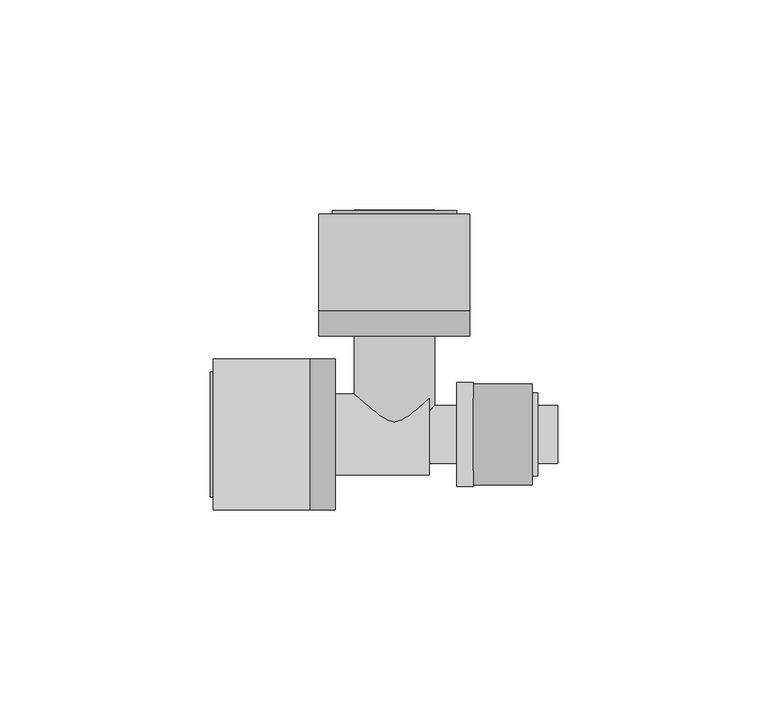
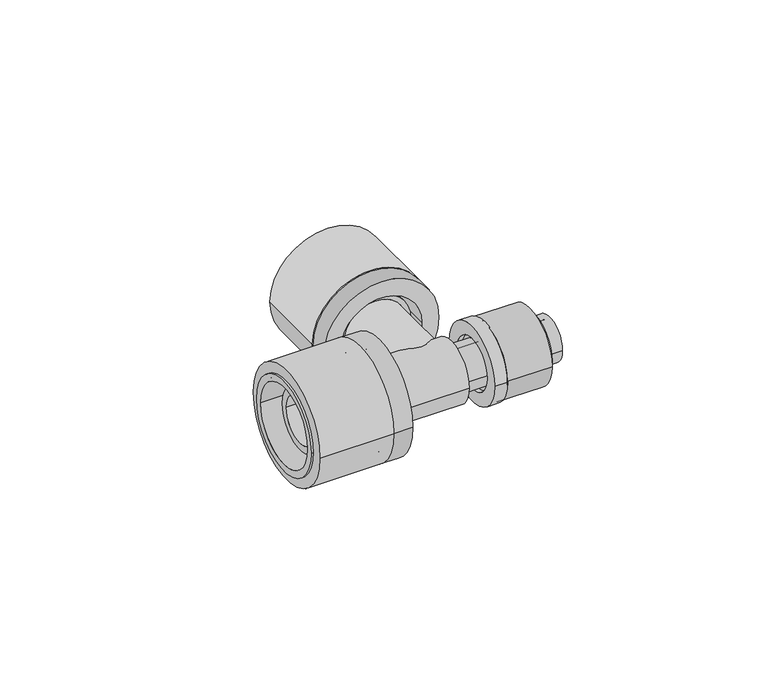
"""IFC4 building model written with IfcOpenShell, lengths in millimetres: pipe fitting geometry, FASTLOC_T-piece_LX : FSL T-Piece LX CZ."""

from ifc_helpers import new_model, si_unit, point, frame, origin, origin_2d, place, context, project, spatial, polyline, circle_curve, trimmed, segment, composite_curve, outline, extrude, source, transform, mapped, element, save
from ifc_brep_helpers import plane_surface, cylinder_surface, revolved_surface, advanced_brep


def pipe_fitting_16730f07(model_context):
    return source(origin(), model_context, "Body", "SolidModel", [
        extrude(outline(composite_curve([segment(trimmed(circle_curve(origin_2d(), 12.0), [point((-12.0, 0.0))], [point((12.0, 0.0))], False, "CARTESIAN"), True, "CONTINUOUS"), segment(trimmed(circle_curve(origin_2d(), 12.0), [point((12.0, 0.0))], [point((-12.0, 0.0))], False, "CARTESIAN"), True, "CONTINUOUS")], self_intersect=False), holes=[composite_curve([segment(trimmed(circle_curve(origin_2d(), 8.85), [point((-8.85, 0.0))], [point((8.85, 0.0))], True, "CARTESIAN"), True, "CONTINUOUS"), segment(trimmed(circle_curve(origin_2d(), 8.85), [point((8.85, 0.0))], [point((-8.85, 0.0))], True, "CARTESIAN"), True, "CONTINUOUS")], self_intersect=False)]), frame((18.8, 0.0, 0.0), z_axis=(1.0, 0.0, 0.0), x_axis=(0.0, 1.0, 0.0)), (0.0, 0.0, 1.0), 14.0),
        advanced_brep(
        [(18.8, 12.35, 0.0), (18.8, -12.35, 0.0), (14.8, -12.35, 0.0), (14.8, 12.35, 0.0), (34.1, 9.85, 0.0), (34.1, -9.85, 0.0), (18.8, -9.85, 0.0), (18.8, 9.85, 0.0), (14.8, 8.15, 0.0), (14.8, -8.15, 0.0), (34.1, -8.15, 0.0), (34.1, 8.15, 0.0)],
        [
            (0, 1, circle_curve(frame((18.8, 0.0, 0.0), z_axis=(-1.0, 0.0, 0.0), x_axis=(0.0, -1.0, 0.0)), 12.35)),
            (1, 2),
            (2, 3, circle_curve(frame((14.8, 0.0, 0.0), z_axis=(1.0, 0.0, 0.0), x_axis=(0.0, -1.0, 0.0)), 12.35)),
            (3, 0),
            (4, 5, circle_curve(frame((34.1, 0.0, 0.0), z_axis=(-1.0, 0.0, 0.0), x_axis=(0.0, -1.0, 0.0)), 9.85)),
            (5, 6),
            (6, 7, circle_curve(frame((18.8, 0.0, 0.0), z_axis=(1.0, 0.0, 0.0), x_axis=(0.0, -1.0, 0.0)), 9.85)),
            (7, 4),
            (8, 9, circle_curve(frame((14.8, 0.0, 0.0), z_axis=(-1.0, 0.0, 0.0), x_axis=(0.0, -1.0, 0.0)), 8.15)),
            (9, 10),
            (10, 11, circle_curve(frame((34.1, 0.0, 0.0), z_axis=(1.0, 0.0, 0.0), x_axis=(0.0, -1.0, 0.0)), 8.15)),
            (11, 8),
            (1, 0, circle_curve(frame((18.8, 0.0, 0.0), z_axis=(-1.0, 0.0, 0.0), x_axis=(0.0, 1.0, 0.0)), 12.35)),
            (3, 2, circle_curve(frame((14.8, 0.0, 0.0), z_axis=(1.0, 0.0, 0.0), x_axis=(0.0, 1.0, 0.0)), 12.35)),
            (6, 7, circle_curve(frame((18.8, 0.0, 0.0), z_axis=(-1.0, 0.0, 0.0), x_axis=(0.0, 1.0, 0.0)), 9.85)),
            (5, 4, circle_curve(frame((34.1, 0.0, 0.0), z_axis=(-1.0, 0.0, 0.0), x_axis=(0.0, 1.0, 0.0)), 9.85)),
            (10, 11, circle_curve(frame((34.1, 0.0, 0.0), z_axis=(-1.0, 0.0, 0.0), x_axis=(0.0, 1.0, 0.0)), 8.15)),
            (9, 8, circle_curve(frame((14.8, 0.0, 0.0), z_axis=(-1.0, 0.0, 0.0), x_axis=(0.0, 1.0, 0.0)), 8.15)),
        ],
        [
            cylinder_surface(frame((14.8, 0.0, 0.0), z_axis=(1.0, 0.0, 0.0), x_axis=(0.0, -1.0, 0.0)), 12.35),
            cylinder_surface(frame((14.8, 0.0, 0.0), z_axis=(1.0, 0.0, 0.0), x_axis=(0.0, -1.0, 0.0)), 9.85),
            revolved_surface(polyline([(34.1, -8.15, 0.0), (14.8, -8.15, 0.0)]), (14.8, 0.0, 0.0), (1.0, 0.0, 0.0)),
            cylinder_surface(frame((14.8, 0.0, 0.0), z_axis=(1.0, 0.0, 0.0), x_axis=(0.0, 1.0, 0.0)), 12.35),
            plane_surface(frame((18.8, 0.0, 0.0), z_axis=(1.0, 0.0, 0.0), x_axis=(0.0, 1.0, 0.0))),
            cylinder_surface(frame((14.8, 0.0, 0.0), z_axis=(1.0, 0.0, 0.0), x_axis=(0.0, 1.0, 0.0)), 9.85),
            plane_surface(frame((34.1, 0.0, 0.0), z_axis=(1.0, 0.0, 0.0), x_axis=(0.0, 1.0, 0.0))),
            revolved_surface(polyline([(34.1, 8.15, 0.0), (14.8, 8.15, 0.0)]), (14.8, 0.0, 0.0), (1.0, 0.0, 0.0)),
            plane_surface(frame((14.8, 0.0, 0.0), z_axis=(-1.0, 0.0, 0.0), x_axis=(0.0, 1.0, 0.0))),
        ],
        [
            (0, [[1, 2, 3, 4]]),
            (1, [[5, 6, 7, 8]]),
            (2, [[9, 10, 11, 12]]),
            (3, [[13, -4, 14, -2]]),
            (4, [[-13, -1], [15, -7]]),
            (5, [[16, -8, -15, -6]]),
            (6, [[-16, -5], [17, -11]]),
            (7, [[18, -12, -17, -10]]),
            (8, [[-14, -3], [-18, -9]]),
        ],
    ),
        extrude(outline(composite_curve([segment(trimmed(circle_curve(origin_2d(), 18.0), [point((18.0, 0.0))], [point((-18.0, 0.0))], False, "CARTESIAN"), True, "CONTINUOUS"), segment(trimmed(circle_curve(origin_2d(), 18.0), [point((-18.0, 0.0))], [point((18.0, 0.0))], False, "CARTESIAN"), True, "CONTINUOUS")], self_intersect=False), holes=[composite_curve([segment(trimmed(circle_curve(origin_2d(), 13.5), [point((13.5, 0.0))], [point((-13.5, 0.0))], True, "CARTESIAN"), True, "CONTINUOUS"), segment(trimmed(circle_curve(origin_2d(), 13.5), [point((-13.5, 0.0))], [point((13.5, 0.0))], True, "CARTESIAN"), True, "CONTINUOUS")], self_intersect=False)]), frame((-43.1, 0.0, 0.0), z_axis=(1.0, 0.0, 0.0), x_axis=(0.0, 1.0, 0.0)), (0.0, 0.0, 1.0), 23.0),
        advanced_brep(
        [(-20.1, -18.0, 0.0), (-20.1, 18.0, 0.0), (-14.1, 18.0, 0.0), (-14.1, -18.0, 0.0), (-43.9, -14.85, 0.0), (-43.9, 14.85, 0.0), (-20.1, 14.85, 0.0), (-20.1, -14.85, 0.0), (-14.1, -12.65, 0.0), (-14.1, 12.65, 0.0), (-43.9, 12.65, 0.0), (-43.9, -12.65, 0.0)],
        [
            (0, 1, circle_curve(frame((-20.1, 0.0, 0.0), z_axis=(1.0, 0.0, 0.0), x_axis=(0.0, 1.0, 0.0)), 18.0)),
            (1, 2),
            (2, 3, circle_curve(frame((-14.1, 0.0, 0.0), z_axis=(-1.0, 0.0, 0.0), x_axis=(0.0, 1.0, 0.0)), 18.0)),
            (3, 0),
            (4, 5, circle_curve(frame((-43.9, 0.0, 0.0), z_axis=(1.0, 0.0, 0.0), x_axis=(0.0, 1.0, 0.0)), 14.85)),
            (5, 6),
            (6, 7, circle_curve(frame((-20.1, 0.0, 0.0), z_axis=(-1.0, 0.0, 0.0), x_axis=(0.0, 1.0, 0.0)), 14.85)),
            (7, 4),
            (8, 9, circle_curve(frame((-14.1, 0.0, 0.0), z_axis=(1.0, 0.0, 0.0), x_axis=(0.0, 1.0, 0.0)), 12.65)),
            (9, 10),
            (10, 11, circle_curve(frame((-43.9, 0.0, 0.0), z_axis=(-1.0, 0.0, 0.0), x_axis=(0.0, 1.0, 0.0)), 12.65)),
            (11, 8),
            (1, 0, circle_curve(frame((-20.1, 0.0, 0.0), z_axis=(1.0, 0.0, 0.0), x_axis=(0.0, -1.0, 0.0)), 18.0)),
            (3, 2, circle_curve(frame((-14.1, 0.0, 0.0), z_axis=(-1.0, 0.0, 0.0), x_axis=(0.0, -1.0, 0.0)), 18.0)),
            (6, 7, circle_curve(frame((-20.1, 0.0, 0.0), z_axis=(1.0, 0.0, 0.0), x_axis=(0.0, -1.0, 0.0)), 14.85)),
            (5, 4, circle_curve(frame((-43.9, 0.0, 0.0), z_axis=(1.0, 0.0, 0.0), x_axis=(0.0, -1.0, 0.0)), 14.85)),
            (10, 11, circle_curve(frame((-43.9, 0.0, 0.0), z_axis=(1.0, 0.0, 0.0), x_axis=(0.0, -1.0, 0.0)), 12.65)),
            (9, 8, circle_curve(frame((-14.1, 0.0, 0.0), z_axis=(1.0, 0.0, 0.0), x_axis=(0.0, -1.0, 0.0)), 12.65)),
        ],
        [
            cylinder_surface(frame((-14.1, 0.0, 0.0), z_axis=(-1.0, 0.0, 0.0), x_axis=(0.0, 1.0, 0.0)), 18.0),
            cylinder_surface(frame((-14.1, 0.0, 0.0), z_axis=(-1.0, 0.0, 0.0), x_axis=(0.0, 1.0, 0.0)), 14.85),
            revolved_surface(polyline([(-43.9, 12.65, 0.0), (-14.1, 12.65, 0.0)]), (-14.1, 0.0, 0.0), (-1.0, 0.0, 0.0)),
            cylinder_surface(frame((-14.1, 0.0, 0.0), z_axis=(-1.0, 0.0, 0.0), x_axis=(0.0, -1.0, 0.0)), 18.0),
            plane_surface(frame((-20.1, 0.0, 0.0), z_axis=(-1.0, 0.0, 0.0), x_axis=(0.0, -1.0, 0.0))),
            cylinder_surface(frame((-14.1, 0.0, 0.0), z_axis=(-1.0, 0.0, 0.0), x_axis=(0.0, -1.0, 0.0)), 14.85),
            plane_surface(frame((-43.9, 0.0, 0.0), z_axis=(-1.0, 0.0, 0.0), x_axis=(0.0, -1.0, 0.0))),
            revolved_surface(polyline([(-43.9, -12.65, 0.0), (-14.1, -12.65, 0.0)]), (-14.1, 0.0, 0.0), (-1.0, 0.0, 0.0)),
            plane_surface(frame((-14.1, 0.0, 0.0), z_axis=(1.0, 0.0, 0.0), x_axis=(0.0, -1.0, 0.0))),
        ],
        [
            (0, [[1, 2, 3, 4]]),
            (1, [[5, 6, 7, 8]]),
            (2, [[9, 10, 11, 12]]),
            (3, [[13, -4, 14, -2]]),
            (4, [[-13, -1], [15, -7]]),
            (5, [[16, -8, -15, -6]]),
            (6, [[-16, -5], [17, -11]]),
            (7, [[18, -12, -17, -10]]),
            (8, [[-14, -3], [-18, -9]]),
        ],
    ),
        extrude(outline(composite_curve([segment(trimmed(circle_curve(origin_2d(), 18.0), [point((0.0, 18.0))], [point((0.0, -18.0))], False, "CARTESIAN"), True, "CONTINUOUS"), segment(trimmed(circle_curve(origin_2d(), 18.0), [point((0.0, -18.0))], [point((0.0, 18.0))], False, "CARTESIAN"), True, "CONTINUOUS")], self_intersect=False), holes=[composite_curve([segment(trimmed(circle_curve(origin_2d(), 13.5), [point((0.0, 13.5))], [point((0.0, -13.5))], True, "CARTESIAN"), True, "CONTINUOUS"), segment(trimmed(circle_curve(origin_2d(), 13.5), [point((0.0, -13.5))], [point((0.0, 13.5))], True, "CARTESIAN"), True, "CONTINUOUS")], self_intersect=False)]), frame((0.0, 29.5, 0.0), z_axis=(0.0, 1.0, 0.0), x_axis=(0.0, 0.0, 1.0)), (0.0, 0.0, 1.0), 23.0),
        advanced_brep(
        [(-18.0, 29.5, 0.0), (18.0, 29.5, 0.0), (18.0, 23.5, 0.0), (-18.0, 23.5, 0.0), (-14.85, 53.3, 0.0), (14.85, 53.3, 0.0), (14.85, 29.5, 0.0), (-14.85, 29.5, 0.0), (-12.65, 23.5, 0.0), (12.65, 23.5, 0.0), (12.65, 53.3, 0.0), (-12.65, 53.3, 0.0)],
        [
            (0, 1, circle_curve(frame((0.0, 29.5, 0.0), z_axis=(0.0, -1.0, 0.0), x_axis=(1.0, 0.0, 0.0)), 18.0)),
            (1, 2),
            (2, 3, circle_curve(frame((0.0, 23.5, 0.0), z_axis=(0.0, 1.0, 0.0), x_axis=(1.0, 0.0, 0.0)), 18.0)),
            (3, 0),
            (4, 5, circle_curve(frame((0.0, 53.3, 0.0), z_axis=(0.0, -1.0, 0.0), x_axis=(1.0, 0.0, 0.0)), 14.85)),
            (5, 6),
            (6, 7, circle_curve(frame((0.0, 29.5, 0.0), z_axis=(0.0, 1.0, 0.0), x_axis=(1.0, 0.0, 0.0)), 14.85)),
            (7, 4),
            (8, 9, circle_curve(frame((0.0, 23.5, 0.0), z_axis=(0.0, -1.0, 0.0), x_axis=(1.0, 0.0, 0.0)), 12.65)),
            (9, 10),
            (10, 11, circle_curve(frame((0.0, 53.3, 0.0), z_axis=(0.0, 1.0, 0.0), x_axis=(1.0, 0.0, 0.0)), 12.65)),
            (11, 8),
            (1, 0, circle_curve(frame((0.0, 29.5, 0.0), z_axis=(0.0, -1.0, 0.0), x_axis=(-1.0, 0.0, 0.0)), 18.0)),
            (3, 2, circle_curve(frame((0.0, 23.5, 0.0), z_axis=(0.0, 1.0, 0.0), x_axis=(-1.0, 0.0, 0.0)), 18.0)),
            (6, 7, circle_curve(frame((0.0, 29.5, 0.0), z_axis=(0.0, -1.0, 0.0), x_axis=(-1.0, 0.0, 0.0)), 14.85)),
            (5, 4, circle_curve(frame((0.0, 53.3, 0.0), z_axis=(0.0, -1.0, 0.0), x_axis=(-1.0, 0.0, 0.0)), 14.85)),
            (10, 11, circle_curve(frame((0.0, 53.3, 0.0), z_axis=(0.0, -1.0, 0.0), x_axis=(-1.0, 0.0, 0.0)), 12.65)),
            (9, 8, circle_curve(frame((0.0, 23.5, 0.0), z_axis=(0.0, -1.0, 0.0), x_axis=(-1.0, 0.0, 0.0)), 12.65)),
        ],
        [
            cylinder_surface(frame((0.0, 23.5, 0.0), z_axis=(0.0, 1.0, 0.0), x_axis=(1.0, 0.0, 0.0)), 18.0),
            cylinder_surface(frame((0.0, 23.5, 0.0), z_axis=(0.0, 1.0, 0.0), x_axis=(1.0, 0.0, 0.0)), 14.85),
            revolved_surface(polyline([(12.65, 53.3, 0.0), (12.65, 23.5, 0.0)]), (0.0, 23.5, 0.0), (0.0, 1.0, 0.0)),
            cylinder_surface(frame((0.0, 23.5, 0.0), z_axis=(0.0, 1.0, 0.0), x_axis=(-1.0, 0.0, 0.0)), 18.0),
            plane_surface(frame((0.0, 29.5, 0.0), z_axis=(0.0, 1.0, 0.0), x_axis=(-1.0, 0.0, 0.0))),
            cylinder_surface(frame((0.0, 23.5, 0.0), z_axis=(0.0, 1.0, 0.0), x_axis=(-1.0, 0.0, 0.0)), 14.85),
            plane_surface(frame((0.0, 53.3, 0.0), z_axis=(0.0, 1.0, 0.0), x_axis=(-1.0, 0.0, 0.0))),
            revolved_surface(polyline([(-12.65, 53.3, 0.0), (-12.65, 23.5, 0.0)]), (0.0, 23.5, 0.0), (0.0, 1.0, 0.0)),
            plane_surface(frame((0.0, 23.5, 0.0), z_axis=(0.0, -1.0, 0.0), x_axis=(-1.0, 0.0, 0.0))),
        ],
        [
            (0, [[1, 2, 3, 4]]),
            (1, [[5, 6, 7, 8]]),
            (2, [[9, 10, 11, 12]]),
            (3, [[13, -4, 14, -2]]),
            (4, [[-13, -1], [15, -7]]),
            (5, [[16, -8, -15, -6]]),
            (6, [[-16, -5], [17, -11]]),
            (7, [[18, -12, -17, -10]]),
            (8, [[-14, -3], [-18, -9]]),
        ],
    ),
        advanced_brep(
        [(16.09, 6.95, 0.0), (16.09, -6.95, 0.0), (8.35, -6.95, 0.0), (8.35, 6.95, 0.0), (18.8, 8.05, 0.0), (18.8, -8.05, 0.0), (16.09, -8.05, 0.0), (16.09, 8.05, 0.0), (38.95, 6.95, 0.0), (38.95, -6.95, 0.0), (18.8, -6.95, 0.0), (18.8, 6.95, 0.0), (6.5, 5.1, 0.0), (6.5, -5.1, 0.0), (38.95, -5.1, 0.0), (38.95, 5.1, 0.0), (-38.95, 7.35, 0.0), (-38.95, -7.35, 0.0), (6.5, -7.35, 0.0), (6.5, 7.35, 0.0), (-20.1, 9.6, 0.0), (-20.1, -9.6, 0.0), (-38.95, -9.6, 0.0), (-38.95, 9.6, 0.0), (-17.3, 11.1, 0.0), (-17.3, -11.1, 0.0), (-20.1, -11.1, 0.0), (-20.1, 11.1, 0.0), (8.35, 9.6, 0.0), (8.35, -9.6, 0.0), (-17.3, -9.6, 0.0), (-17.3, 9.6, 0.0)],
        [
            (0, 1, circle_curve(frame((16.09, 0.0, 0.0), z_axis=(-1.0, 0.0, 0.0), x_axis=(0.0, -1.0, 0.0)), 6.95)),
            (1, 2),
            (2, 3, circle_curve(frame((8.35, 0.0, 0.0), z_axis=(1.0, 0.0, 0.0), x_axis=(0.0, -1.0, 0.0)), 6.95)),
            (3, 0),
            (4, 5, circle_curve(frame((18.8, 0.0, 0.0), z_axis=(-1.0, 0.0, 0.0), x_axis=(0.0, -1.0, 0.0)), 8.05)),
            (5, 6),
            (6, 7, circle_curve(frame((16.09, 0.0, 0.0), z_axis=(1.0, 0.0, 0.0), x_axis=(0.0, -1.0, 0.0)), 8.05)),
            (7, 4),
            (8, 9, circle_curve(frame((38.95, 0.0, 0.0), z_axis=(-1.0, 0.0, 0.0), x_axis=(0.0, -1.0, 0.0)), 6.95)),
            (9, 10),
            (10, 11, circle_curve(frame((18.8, 0.0, 0.0), z_axis=(1.0, 0.0, 0.0), x_axis=(0.0, -1.0, 0.0)), 6.95)),
            (11, 8),
            (12, 13, circle_curve(frame((6.5, 0.0, 0.0), z_axis=(-1.0, 0.0, 0.0), x_axis=(0.0, -1.0, 0.0)), 5.1)),
            (13, 14),
            (14, 15, circle_curve(frame((38.95, 0.0, 0.0), z_axis=(1.0, 0.0, 0.0), x_axis=(0.0, -1.0, 0.0)), 5.1)),
            (15, 12),
            (16, 17, circle_curve(frame((-38.95, 0.0, 0.0), z_axis=(-1.0, 0.0, 0.0), x_axis=(0.0, -1.0, 0.0)), 7.35)),
            (17, 18),
            (18, 19, circle_curve(frame((6.5, 0.0, 0.0), z_axis=(1.0, 0.0, 0.0), x_axis=(0.0, -1.0, 0.0)), 7.35)),
            (19, 16),
            (20, 21, circle_curve(frame((-20.1, 0.0, 0.0), z_axis=(-1.0, 0.0, 0.0), x_axis=(0.0, -1.0, 0.0)), 9.6)),
            (21, 22),
            (22, 23, circle_curve(frame((-38.95, 0.0, 0.0), z_axis=(1.0, 0.0, 0.0), x_axis=(0.0, -1.0, 0.0)), 9.6)),
            (23, 20),
            (24, 25, circle_curve(frame((-17.3, 0.0, 0.0), z_axis=(-1.0, 0.0, 0.0), x_axis=(0.0, -1.0, 0.0)), 11.1)),
            (25, 26),
            (26, 27, circle_curve(frame((-20.1, 0.0, 0.0), z_axis=(1.0, 0.0, 0.0), x_axis=(0.0, -1.0, 0.0)), 11.1)),
            (27, 24),
            (28, 29, circle_curve(frame((8.35, 0.0, 0.0), z_axis=(-1.0, 0.0, 0.0), x_axis=(0.0, -1.0, 0.0)), 9.6)),
            (29, 30),
            (30, 31, circle_curve(frame((-17.3, 0.0, 0.0), z_axis=(1.0, 0.0, 0.0), x_axis=(0.0, -1.0, 0.0)), 9.6)),
            (31, 28),
            (28, 29, circle_curve(frame((8.35, 0.0, 0.0), z_axis=(1.0, 0.0, 0.0), x_axis=(0.0, 1.0, 0.0)), 9.6)),
            (2, 3, circle_curve(frame((8.35, 0.0, 0.0), z_axis=(-1.0, 0.0, 0.0), x_axis=(0.0, 1.0, 0.0)), 6.95)),
            (1, 0, circle_curve(frame((16.09, 0.0, 0.0), z_axis=(-1.0, 0.0, 0.0), x_axis=(0.0, 1.0, 0.0)), 6.95)),
            (6, 7, circle_curve(frame((16.09, 0.0, 0.0), z_axis=(-1.0, 0.0, 0.0), x_axis=(0.0, 1.0, 0.0)), 8.05)),
            (5, 4, circle_curve(frame((18.8, 0.0, 0.0), z_axis=(-1.0, 0.0, 0.0), x_axis=(0.0, 1.0, 0.0)), 8.05)),
            (10, 11, circle_curve(frame((18.8, 0.0, 0.0), z_axis=(-1.0, 0.0, 0.0), x_axis=(0.0, 1.0, 0.0)), 6.95)),
            (9, 8, circle_curve(frame((38.95, 0.0, 0.0), z_axis=(-1.0, 0.0, 0.0), x_axis=(0.0, 1.0, 0.0)), 6.95)),
            (14, 15, circle_curve(frame((38.95, 0.0, 0.0), z_axis=(-1.0, 0.0, 0.0), x_axis=(0.0, 1.0, 0.0)), 5.1)),
            (13, 12, circle_curve(frame((6.5, 0.0, 0.0), z_axis=(-1.0, 0.0, 0.0), x_axis=(0.0, 1.0, 0.0)), 5.1)),
            (18, 19, circle_curve(frame((6.5, 0.0, 0.0), z_axis=(-1.0, 0.0, 0.0), x_axis=(0.0, 1.0, 0.0)), 7.35)),
            (17, 16, circle_curve(frame((-38.95, 0.0, 0.0), z_axis=(-1.0, 0.0, 0.0), x_axis=(0.0, 1.0, 0.0)), 7.35)),
            (22, 23, circle_curve(frame((-38.95, 0.0, 0.0), z_axis=(-1.0, 0.0, 0.0), x_axis=(0.0, 1.0, 0.0)), 9.6)),
            (21, 20, circle_curve(frame((-20.1, 0.0, 0.0), z_axis=(-1.0, 0.0, 0.0), x_axis=(0.0, 1.0, 0.0)), 9.6)),
            (26, 27, circle_curve(frame((-20.1, 0.0, 0.0), z_axis=(-1.0, 0.0, 0.0), x_axis=(0.0, 1.0, 0.0)), 11.1)),
            (25, 24, circle_curve(frame((-17.3, 0.0, 0.0), z_axis=(-1.0, 0.0, 0.0), x_axis=(0.0, 1.0, 0.0)), 11.1)),
            (30, 31, circle_curve(frame((-17.3, 0.0, 0.0), z_axis=(-1.0, 0.0, 0.0), x_axis=(0.0, 1.0, 0.0)), 9.6)),
        ],
        [
            cylinder_surface(frame((0.0, 0.0, 0.0), z_axis=(1.0, 0.0, 0.0), x_axis=(0.0, -1.0, 0.0)), 6.95),
            cylinder_surface(frame((0.0, 0.0, 0.0), z_axis=(1.0, 0.0, 0.0), x_axis=(0.0, -1.0, 0.0)), 8.05),
            revolved_surface(polyline([(38.95, -5.1, 0.0), (6.5, -5.1, 0.0)]), (0.0, 0.0, 0.0), (1.0, 0.0, 0.0)),
            revolved_surface(polyline([(6.5, -7.35, 0.0), (-38.95, -7.35, 0.0)]), (0.0, 0.0, 0.0), (1.0, 0.0, 0.0)),
            cylinder_surface(frame((0.0, 0.0, 0.0), z_axis=(1.0, 0.0, 0.0), x_axis=(0.0, -1.0, 0.0)), 9.6),
            cylinder_surface(frame((0.0, 0.0, 0.0), z_axis=(1.0, 0.0, 0.0), x_axis=(0.0, -1.0, 0.0)), 11.1),
            plane_surface(frame((8.35, 0.0, 0.0), z_axis=(1.0, 0.0, 0.0), x_axis=(0.0, 1.0, 0.0))),
            cylinder_surface(frame((0.0, 0.0, 0.0), z_axis=(1.0, 0.0, 0.0), x_axis=(0.0, 1.0, 0.0)), 6.95),
            plane_surface(frame((16.09, 0.0, 0.0), z_axis=(-1.0, 0.0, 0.0), x_axis=(0.0, 1.0, 0.0))),
            cylinder_surface(frame((0.0, 0.0, 0.0), z_axis=(1.0, 0.0, 0.0), x_axis=(0.0, 1.0, 0.0)), 8.05),
            plane_surface(frame((18.8, 0.0, 0.0), z_axis=(1.0, 0.0, 0.0), x_axis=(0.0, 1.0, 0.0))),
            plane_surface(frame((38.95, 0.0, 0.0), z_axis=(1.0, 0.0, 0.0), x_axis=(0.0, 1.0, 0.0))),
            revolved_surface(polyline([(38.95, 5.1, 0.0), (6.5, 5.1, 0.0)]), (0.0, 0.0, 0.0), (1.0, 0.0, 0.0)),
            plane_surface(frame((6.5, 0.0, 0.0), z_axis=(-1.0, 0.0, 0.0), x_axis=(0.0, 1.0, 0.0))),
            revolved_surface(polyline([(6.5, 7.35, 0.0), (-38.95, 7.35, 0.0)]), (0.0, 0.0, 0.0), (1.0, 0.0, 0.0)),
            plane_surface(frame((-38.95, 0.0, 0.0), z_axis=(-1.0, 0.0, 0.0), x_axis=(0.0, 1.0, 0.0))),
            cylinder_surface(frame((0.0, 0.0, 0.0), z_axis=(1.0, 0.0, 0.0), x_axis=(0.0, 1.0, 0.0)), 9.6),
            plane_surface(frame((-20.1, 0.0, 0.0), z_axis=(-1.0, 0.0, 0.0), x_axis=(0.0, 1.0, 0.0))),
            cylinder_surface(frame((0.0, 0.0, 0.0), z_axis=(1.0, 0.0, 0.0), x_axis=(0.0, 1.0, 0.0)), 11.1),
            plane_surface(frame((-17.3, 0.0, 0.0), z_axis=(1.0, 0.0, 0.0), x_axis=(0.0, 1.0, 0.0))),
        ],
        [
            (0, [[1, 2, 3, 4]]),
            (1, [[5, 6, 7, 8]]),
            (0, [[9, 10, 11, 12]]),
            (2, [[13, 14, 15, 16]]),
            (3, [[17, 18, 19, 20]]),
            (4, [[21, 22, 23, 24]]),
            (5, [[25, 26, 27, 28]]),
            (4, [[29, 30, 31, 32]]),
            (6, [[33, -29], [34, -3]]),
            (7, [[35, -4, -34, -2]]),
            (8, [[36, -7], [-35, -1]]),
            (9, [[37, -8, -36, -6]]),
            (10, [[-37, -5], [38, -11]]),
            (7, [[39, -12, -38, -10]]),
            (11, [[-39, -9], [40, -15]]),
            (12, [[41, -16, -40, -14]]),
            (13, [[42, -19], [-41, -13]]),
            (14, [[43, -20, -42, -18]]),
            (15, [[44, -23], [-43, -17]]),
            (16, [[45, -24, -44, -22]]),
            (17, [[46, -27], [-45, -21]]),
            (18, [[47, -28, -46, -26]]),
            (19, [[-47, -25], [48, -31]]),
            (16, [[-33, -32, -48, -30]]),
        ],
    ),
        advanced_brep(
        [(7.35, 53.5, 0.0), (-7.35, 53.5, 0.0), (-7.35, 0.0, 0.0), (7.35, 0.0, 0.0), (9.6, 0.0, 0.0), (-9.6, 0.0, 0.0), (-9.6, 26.7, 0.0), (9.6, 26.7, 0.0), (11.1, 26.7, 0.0), (-11.1, 26.7, 0.0), (-11.1, 29.5, 0.0), (11.1, 29.5, 0.0), (9.6, 29.5, 0.0), (-9.6, 29.5, 0.0), (-9.6, 53.5, 0.0), (9.6, 53.5, 0.0)],
        [
            (0, 1, circle_curve(frame((0.0, 53.5, 0.0), z_axis=(0.0, 1.0, 0.0), x_axis=(-1.0, 0.0, 0.0)), 7.35)),
            (1, 2),
            (2, 3, circle_curve(frame((0.0, 0.0, 0.0), z_axis=(0.0, -1.0, 0.0), x_axis=(-1.0, 0.0, 0.0)), 7.35)),
            (3, 0),
            (4, 5, circle_curve(frame((0.0, 0.0, 0.0), z_axis=(0.0, 1.0, 0.0), x_axis=(-1.0, 0.0, 0.0)), 9.6)),
            (5, 6),
            (6, 7, circle_curve(frame((0.0, 26.7, 0.0), z_axis=(0.0, -1.0, 0.0), x_axis=(-1.0, 0.0, 0.0)), 9.6)),
            (7, 4),
            (8, 9, circle_curve(frame((0.0, 26.7, 0.0), z_axis=(0.0, 1.0, 0.0), x_axis=(-1.0, 0.0, 0.0)), 11.1)),
            (9, 10),
            (10, 11, circle_curve(frame((0.0, 29.5, 0.0), z_axis=(0.0, -1.0, 0.0), x_axis=(-1.0, 0.0, 0.0)), 11.1)),
            (11, 8),
            (12, 13, circle_curve(frame((0.0, 29.5, 0.0), z_axis=(0.0, 1.0, 0.0), x_axis=(-1.0, 0.0, 0.0)), 9.6)),
            (13, 14),
            (14, 15, circle_curve(frame((0.0, 53.5, 0.0), z_axis=(0.0, -1.0, 0.0), x_axis=(-1.0, 0.0, 0.0)), 9.6)),
            (15, 12),
            (1, 0, circle_curve(frame((0.0, 53.5, 0.0), z_axis=(0.0, 1.0, 0.0), x_axis=(1.0, 0.0, 0.0)), 7.35)),
            (3, 2, circle_curve(frame((0.0, 0.0, 0.0), z_axis=(0.0, -1.0, 0.0), x_axis=(1.0, 0.0, 0.0)), 7.35)),
            (4, 5, circle_curve(frame((0.0, 0.0, 0.0), z_axis=(0.0, -1.0, 0.0), x_axis=(1.0, 0.0, 0.0)), 9.6)),
            (7, 6, circle_curve(frame((0.0, 26.7, 0.0), z_axis=(0.0, -1.0, 0.0), x_axis=(1.0, 0.0, 0.0)), 9.6)),
            (8, 9, circle_curve(frame((0.0, 26.7, 0.0), z_axis=(0.0, -1.0, 0.0), x_axis=(1.0, 0.0, 0.0)), 11.1)),
            (11, 10, circle_curve(frame((0.0, 29.5, 0.0), z_axis=(0.0, -1.0, 0.0), x_axis=(1.0, 0.0, 0.0)), 11.1)),
            (12, 13, circle_curve(frame((0.0, 29.5, 0.0), z_axis=(0.0, -1.0, 0.0), x_axis=(1.0, 0.0, 0.0)), 9.6)),
            (15, 14, circle_curve(frame((0.0, 53.5, 0.0), z_axis=(0.0, -1.0, 0.0), x_axis=(1.0, 0.0, 0.0)), 9.6)),
        ],
        [
            revolved_surface(polyline([(-7.35, 0.0, 0.0), (-7.35, 53.5, 0.0)]), (0.0, 0.0, 0.0), (0.0, -1.0, 0.0)),
            cylinder_surface(frame((0.0, 0.0, 0.0), z_axis=(0.0, -1.0, 0.0), x_axis=(-1.0, 0.0, 0.0)), 9.6),
            cylinder_surface(frame((0.0, 0.0, 0.0), z_axis=(0.0, -1.0, 0.0), x_axis=(-1.0, 0.0, 0.0)), 11.1),
            revolved_surface(polyline([(7.35, 0.0, 0.0), (7.35, 53.5, 0.0)]), (0.0, 0.0, 0.0), (0.0, -1.0, 0.0)),
            plane_surface(frame((0.0, 0.0, 0.0), z_axis=(0.0, -1.0, 0.0), x_axis=(1.0, 0.0, 0.0))),
            cylinder_surface(frame((0.0, 0.0, 0.0), z_axis=(0.0, -1.0, 0.0), x_axis=(1.0, 0.0, 0.0)), 9.6),
            plane_surface(frame((0.0, 26.7, 0.0), z_axis=(0.0, -1.0, 0.0), x_axis=(1.0, 0.0, 0.0))),
            cylinder_surface(frame((0.0, 0.0, 0.0), z_axis=(0.0, -1.0, 0.0), x_axis=(1.0, 0.0, 0.0)), 11.1),
            plane_surface(frame((0.0, 29.5, 0.0), z_axis=(0.0, 1.0, 0.0), x_axis=(1.0, 0.0, 0.0))),
            plane_surface(frame((0.0, 53.5, 0.0), z_axis=(0.0, 1.0, 0.0), x_axis=(1.0, 0.0, 0.0))),
        ],
        [
            (0, [[1, 2, 3, 4]]),
            (1, [[5, 6, 7, 8]]),
            (2, [[9, 10, 11, 12]]),
            (1, [[13, 14, 15, 16]]),
            (3, [[17, -4, 18, -2]]),
            (4, [[19, -5], [-18, -3]]),
            (5, [[-19, -8, 20, -6]]),
            (6, [[21, -9], [-20, -7]]),
            (7, [[-21, -12, 22, -10]]),
            (8, [[-22, -11], [23, -13]]),
            (5, [[-23, -16, 24, -14]]),
            (9, [[-24, -15], [-17, -1]]),
        ],
    ),
    ])


if __name__ == "__main__":
    model = new_model("IFC4")
    model_context = context("Model", 3, world=origin())
    ifc_project = project(units=[si_unit("LENGTHUNIT", "METRE", prefix="MILLI")], contexts=[model_context])
    site = spatial("IfcSite", under=ifc_project)
    building = spatial("IfcBuilding", under=site)
    placement = place(None, origin())
    pipe_fitting_shape = pipe_fitting_16730f07(model_context)
    element("IfcPipeFitting", 1, ObjectType="FASTLOC_T-piece_LX : FSL T-Piece LX CZ", at=placement, inside=building, context=model_context, shape_type="MappedRepresentation", body=[
        mapped(pipe_fitting_shape, transform((0.0, 0.0, 0.0), x_axis=(1.0, 0.0, 0.0), y_axis=(0.0, 1.0, 0.0), z_axis=(0.0, 0.0, 1.0))),
    ])
    save(model, "model.ifc")
